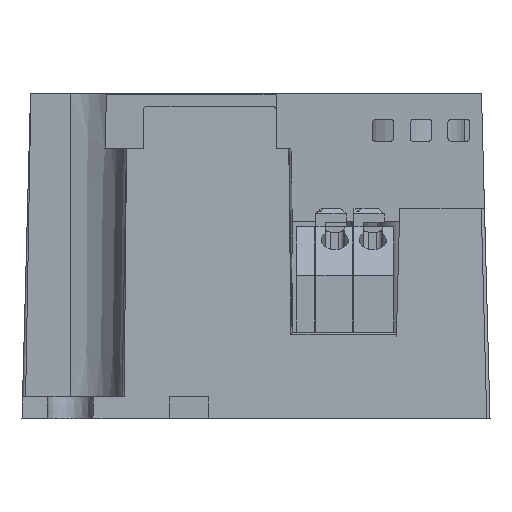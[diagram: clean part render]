
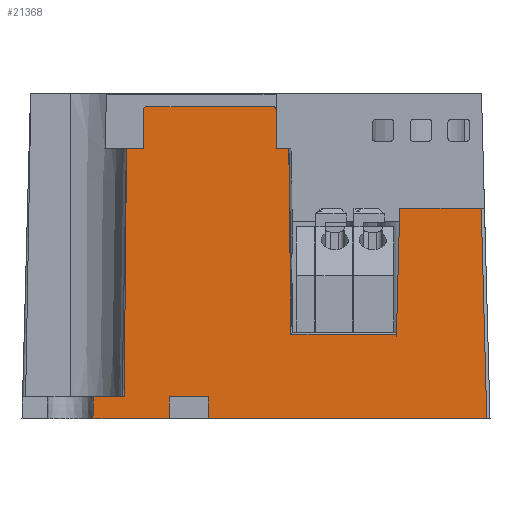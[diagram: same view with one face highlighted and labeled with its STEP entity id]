
A CAD part, front view. The second image highlights one B-rep face of the part: STEP entity #21368.
In plain terms, the highlighted planar face has unit normal (0, -1, 0.026).
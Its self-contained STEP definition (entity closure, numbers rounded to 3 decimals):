
#1405=(
BOUNDED_CURVE()
B_SPLINE_CURVE(2,(#30107,#30108,#30109),.UNSPECIFIED.,.F.,.F.)
B_SPLINE_CURVE_WITH_KNOTS((3,3),(0.001,1.706),
 .UNSPECIFIED.)
CURVE()
GEOMETRIC_REPRESENTATION_ITEM()
RATIONAL_B_SPLINE_CURVE((1.,0.954,0.999))
REPRESENTATION_ITEM($)
);
#1406=(
BOUNDED_CURVE()
B_SPLINE_CURVE(2,(#30125,#30126,#30127),.UNSPECIFIED.,.F.,.F.)
B_SPLINE_CURVE_WITH_KNOTS((3,3),(0.001,2.291),
 .UNSPECIFIED.)
CURVE()
GEOMETRIC_REPRESENTATION_ITEM()
RATIONAL_B_SPLINE_CURVE((1.,0.889,1.))
REPRESENTATION_ITEM($)
);
#1420=PLANE($,#22624);
#2319=FACE_OUTER_BOUND($,#3484,.T.);
#3484=EDGE_LOOP($,(#15026,#15027,#15028,#15029,#15030,#15031,#15032,#15033,
#15034,#15035,#15036,#15037,#15038,#15039,#15040,#15041,#15042,#15043,#15044,
#15045,#15046));
#4712=LINE($,#30077,#7228);
#4719=LINE($,#30096,#7235);
#4721=LINE($,#30101,#7237);
#4722=LINE($,#30103,#7238);
#4723=LINE($,#30105,#7239);
#4724=LINE($,#30111,#7240);
#4725=LINE($,#30113,#7241);
#4726=LINE($,#30117,#7242);
#4727=LINE($,#30121,#7243);
#4728=LINE($,#30123,#7244);
#4729=LINE($,#30129,#7245);
#4730=LINE($,#30131,#7246);
#4731=LINE($,#30133,#7247);
#4732=LINE($,#30135,#7248);
#4733=LINE($,#30137,#7249);
#4734=LINE($,#30139,#7250);
#4735=LINE($,#30140,#7251);
#7228=VECTOR($,#24272,11.864);
#7235=VECTOR($,#24289,19.414);
#7237=VECTOR($,#24295,7.522);
#7238=VECTOR($,#24296,0.25);
#7239=VECTOR($,#24297,9.735);
#7240=VECTOR($,#24298,1.178);
#7241=VECTOR($,#24299,3.601);
#7242=VECTOR($,#24302,11.628);
#7243=VECTOR($,#24305,3.601);
#7244=VECTOR($,#24306,1.576);
#7245=VECTOR($,#24307,2.849);
#7246=VECTOR($,#24308,2.001);
#7247=VECTOR($,#24309,7.05);
#7248=VECTOR($,#24310,2.001);
#7249=VECTOR($,#24311,3.6);
#7250=VECTOR($,#24312,2.001);
#7251=VECTOR($,#24313,25.7);
#9745=ELLIPSE($,#22625,0.3,0.3);
#9746=ELLIPSE($,#22626,0.3,0.3);
#9894=VERTEX_POINT($,#30074);
#9895=VERTEX_POINT($,#30076);
#9901=VERTEX_POINT($,#30093);
#9902=VERTEX_POINT($,#30095);
#9904=VERTEX_POINT($,#30102);
#9905=VERTEX_POINT($,#30104);
#9906=VERTEX_POINT($,#30106);
#9907=VERTEX_POINT($,#30110);
#9908=VERTEX_POINT($,#30112);
#9909=VERTEX_POINT($,#30114);
#9910=VERTEX_POINT($,#30116);
#9911=VERTEX_POINT($,#30118);
#9912=VERTEX_POINT($,#30120);
#9913=VERTEX_POINT($,#30122);
#9914=VERTEX_POINT($,#30124);
#9915=VERTEX_POINT($,#30128);
#9916=VERTEX_POINT($,#30130);
#9917=VERTEX_POINT($,#30132);
#9918=VERTEX_POINT($,#30134);
#9919=VERTEX_POINT($,#30136);
#9920=VERTEX_POINT($,#30138);
#11918=EDGE_CURVE($,#9894,#9895,#4712,.T.);
#11927=EDGE_CURVE($,#9901,#9902,#4719,.T.);
#11930=EDGE_CURVE($,#9901,#9895,#4721,.T.);
#11931=EDGE_CURVE($,#9894,#9904,#4722,.T.);
#11932=EDGE_CURVE($,#9905,#9904,#4723,.T.);
#11933=EDGE_CURVE($,#9906,#9905,#1405,.T.);
#11934=EDGE_CURVE($,#9907,#9906,#4724,.T.);
#11935=EDGE_CURVE($,#9908,#9907,#4725,.T.);
#11936=EDGE_CURVE($,#9909,#9908,#9745,.T.);
#11937=EDGE_CURVE($,#9910,#9909,#4726,.T.);
#11938=EDGE_CURVE($,#9911,#9910,#9746,.T.);
#11939=EDGE_CURVE($,#9912,#9911,#4727,.T.);
#11940=EDGE_CURVE($,#9913,#9912,#4728,.T.);
#11941=EDGE_CURVE($,#9914,#9913,#1406,.T.);
#11942=EDGE_CURVE($,#9915,#9914,#4729,.T.);
#11943=EDGE_CURVE($,#9916,#9915,#4730,.T.);
#11944=EDGE_CURVE($,#9917,#9916,#4731,.T.);
#11945=EDGE_CURVE($,#9918,#9917,#4732,.T.);
#11946=EDGE_CURVE($,#9919,#9918,#4733,.T.);
#11947=EDGE_CURVE($,#9920,#9919,#4734,.T.);
#11948=EDGE_CURVE($,#9902,#9920,#4735,.T.);
#15026=ORIENTED_EDGE($,*,*,#11927,.F.);
#15027=ORIENTED_EDGE($,*,*,#11930,.T.);
#15028=ORIENTED_EDGE($,*,*,#11918,.F.);
#15029=ORIENTED_EDGE($,*,*,#11931,.T.);
#15030=ORIENTED_EDGE($,*,*,#11932,.F.);
#15031=ORIENTED_EDGE($,*,*,#11933,.F.);
#15032=ORIENTED_EDGE($,*,*,#11934,.F.);
#15033=ORIENTED_EDGE($,*,*,#11935,.F.);
#15034=ORIENTED_EDGE($,*,*,#11936,.F.);
#15035=ORIENTED_EDGE($,*,*,#11937,.F.);
#15036=ORIENTED_EDGE($,*,*,#11938,.F.);
#15037=ORIENTED_EDGE($,*,*,#11939,.F.);
#15038=ORIENTED_EDGE($,*,*,#11940,.F.);
#15039=ORIENTED_EDGE($,*,*,#11941,.F.);
#15040=ORIENTED_EDGE($,*,*,#11942,.F.);
#15041=ORIENTED_EDGE($,*,*,#11943,.F.);
#15042=ORIENTED_EDGE($,*,*,#11944,.F.);
#15043=ORIENTED_EDGE($,*,*,#11945,.F.);
#15044=ORIENTED_EDGE($,*,*,#11946,.F.);
#15045=ORIENTED_EDGE($,*,*,#11947,.F.);
#15046=ORIENTED_EDGE($,*,*,#11948,.F.);
#21368=ADVANCED_FACE($,(#2319),#1420,.F.);
#22624=AXIS2_PLACEMENT_3D($,#30100,#24293,#24294);
#22625=AXIS2_PLACEMENT_3D($,#30115,#24300,#24301);
#22626=AXIS2_PLACEMENT_3D($,#30119,#24303,#24304);
#24272=DIRECTION($,(0.026,0.026,0.999));
#24289=DIRECTION($,(0.026,-0.026,-0.999));
#24293=DIRECTION('center_axis',(0.,1.,-0.026));
#24294=DIRECTION('ref_axis',(0.,0.026,1.));
#24295=DIRECTION($,(-1.,0.,0.));
#24296=DIRECTION($,(0.,0.026,1.));
#24297=DIRECTION($,(1.,0.,0.));
#24298=DIRECTION($,(1.,0.,0.));
#24299=DIRECTION($,(0.,-0.026,-1.));
#24300=DIRECTION('center_axis',(0.,1.,-0.026));
#24301=DIRECTION('ref_axis',(0.,0.026,1.));
#24302=DIRECTION($,(1.,0.,0.));
#24303=DIRECTION('center_axis',(0.,1.,-0.026));
#24304=DIRECTION('ref_axis',(0.,0.026,1.));
#24305=DIRECTION($,(0.,0.026,1.));
#24306=DIRECTION($,(1.,0.,0.));
#24307=DIRECTION($,(1.,0.,0.));
#24308=DIRECTION($,(0.017,0.026,1.));
#24309=DIRECTION($,(-1.,0.,0.));
#24310=DIRECTION($,(0.,-0.026,-1.));
#24311=DIRECTION($,(-1.,0.,0.));
#24312=DIRECTION($,(0.,0.026,1.));
#24313=DIRECTION($,(-1.,0.,0.));
#30074=CARTESIAN_POINT('',(12.959,-48.402,7.544));
#30076=CARTESIAN_POINT('',(13.27,-48.092,19.4));
#30077=CARTESIAN_POINT($,(12.962,-48.4,7.655));
#30093=CARTESIAN_POINT('',(20.792,-48.092,19.4));
#30095=CARTESIAN_POINT('',(21.3,-48.6,0.));
#30096=CARTESIAN_POINT($,(21.276,-48.576,0.91));
#30100=CARTESIAN_POINT('Origin',(0.,-48.6,0.));
#30101=CARTESIAN_POINT($,(12.959,-48.092,19.4));
#30102=CARTESIAN_POINT('',(12.959,-48.396,7.794));
#30103=CARTESIAN_POINT($,(12.959,-48.481,4.53));
#30104=CARTESIAN_POINT('',(3.224,-48.396,7.794));
#30105=CARTESIAN_POINT($,(15.788,-48.396,7.794));
#30106=CARTESIAN_POINT('',(3.028,-47.948,24.9));
#30107=CARTESIAN_POINT('Ctrl Pts',(3.028,-47.948,24.9));
#30108=CARTESIAN_POINT('Ctrl Pts',(3.18,-48.218,14.593));
#30109=CARTESIAN_POINT('Ctrl Pts',(3.224,-48.396,7.794));
#30110=CARTESIAN_POINT('',(1.85,-47.948,24.9));
#30111=CARTESIAN_POINT($,(2.463,-47.948,24.9));
#30112=CARTESIAN_POINT('',(1.85,-47.854,28.5));
#30113=CARTESIAN_POINT($,(1.85,-48.211,14.871));
#30114=CARTESIAN_POINT('',(1.55,-47.846,28.8));
#30115=CARTESIAN_POINT('Origin',(1.55,-47.854,28.5));
#30116=CARTESIAN_POINT('',(-10.078,-47.846,28.8));
#30117=CARTESIAN_POINT($,(-2.132,-47.846,28.8));
#30118=CARTESIAN_POINT('',(-10.378,-47.854,28.5));
#30119=CARTESIAN_POINT('Origin',(-10.078,-47.854,28.5));
#30120=CARTESIAN_POINT('',(-10.378,-47.948,24.9));
#30121=CARTESIAN_POINT($,(-10.378,-48.206,15.051));
#30122=CARTESIAN_POINT('',(-11.954,-47.948,24.9));
#30123=CARTESIAN_POINT($,(-6.882,-47.948,24.9));
#30124=CARTESIAN_POINT('',(-12.166,-48.548,2.));
#30125=CARTESIAN_POINT('Ctrl Pts',(-12.166,-48.548,
2.));
#30126=CARTESIAN_POINT('Ctrl Pts',(-12.208,-48.392,
7.933));
#30127=CARTESIAN_POINT('Ctrl Pts',(-11.954,-47.948,
24.9));
#30128=CARTESIAN_POINT('',(-15.015,-48.548,2.));
#30129=CARTESIAN_POINT($,(-8.643,-48.548,2.));
#30130=CARTESIAN_POINT('',(-15.05,-48.6,0.));
#30131=CARTESIAN_POINT($,(-15.048,-48.597,0.131));
#30132=CARTESIAN_POINT('',(-8.,-48.6,0.));
#30133=CARTESIAN_POINT($,(-12.4,-48.6,0.));
#30134=CARTESIAN_POINT('',(-8.,-48.548,2.));
#30135=CARTESIAN_POINT($,(-8.,-48.599,0.02));
#30136=CARTESIAN_POINT('',(-4.4,-48.548,2.));
#30137=CARTESIAN_POINT($,(-3.35,-48.548,2.));
#30138=CARTESIAN_POINT('',(-4.4,-48.6,0.));
#30139=CARTESIAN_POINT($,(-4.4,-48.6,-0.004));
#30140=CARTESIAN_POINT($,(-12.4,-48.6,0.));
